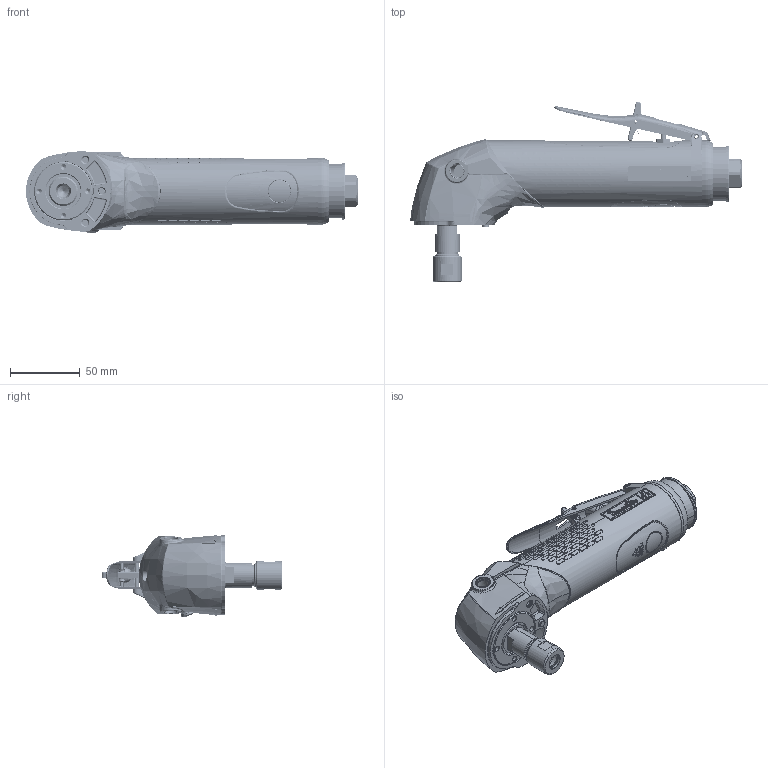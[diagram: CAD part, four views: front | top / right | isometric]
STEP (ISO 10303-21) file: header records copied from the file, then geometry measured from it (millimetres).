
FILE_DESCRIPTION((''),'2;1');
FILE_NAME('6151704430_KA16120-9','2008-10-28T',('sdanet'),(''),'PRO/ENGINEER BY PARAMETRIC TECHNOLOGY CORPORATION, 2008250','PRO/ENGINEER BY PARAMETRIC TECHNOLOGY CORPORATION, 2008250','');
FILE_SCHEMA(('CONFIG_CONTROL_DESIGN'));
Products named in the file (1): 6151704430_KA16120-9
Bounding box: 238.04 x 129.32 x 58.99 mm (x, y, z)
Volume: 87127 mm3; surface area: 150104.5 mm2
Topology: 13 solids, 33 shells, 5630 faces, 14984 edges, 9721 vertices
Faces by surface type: plane 2229, extrusion 1734, cylinder 925, cone 423, bspline 188, torus 109, sphere 22
Entity records: 203051 total; most frequent: CARTESIAN_POINT 72155, ORIENTED_EDGE 29822, DIRECTION 20794, EDGE_CURVE 14952, VECTOR 9878, VERTEX_POINT 9721, LINE 8144, B_SPLINE_CURVE_WITH_KNOTS 6793
